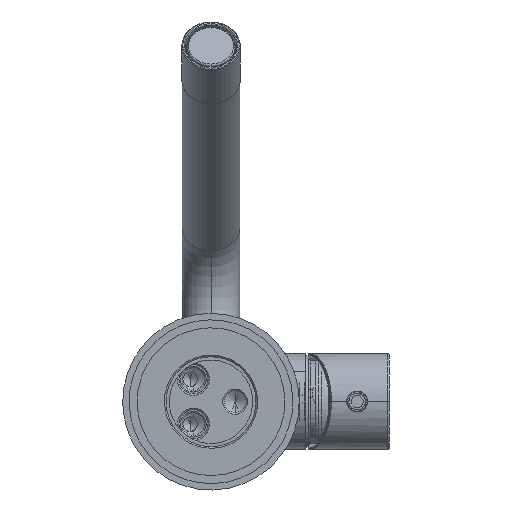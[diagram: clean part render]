
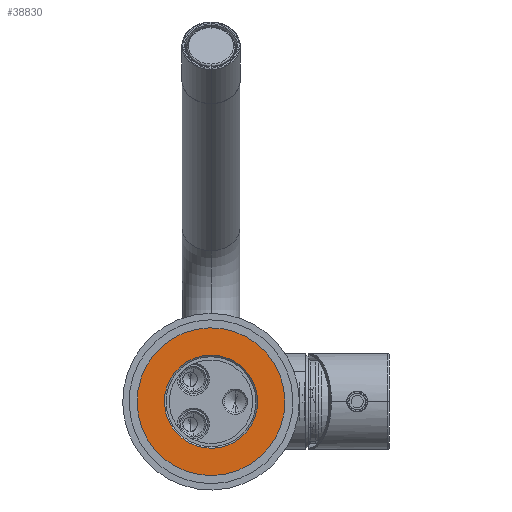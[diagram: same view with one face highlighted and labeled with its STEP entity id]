
A CAD part, front view. The second image highlights one B-rep face of the part: STEP entity #38830.
In plain terms, the highlighted planar face has unit normal (0, -1, 0).
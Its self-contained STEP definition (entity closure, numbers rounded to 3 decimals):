
#297 = ORIENTED_EDGE ( 'NONE', *, *, #17769, .T. ) ;
#1594 = AXIS2_PLACEMENT_3D ( 'NONE', #29063, #35026, #16016 ) ;
#1979 = CIRCLE ( 'NONE', #7447, 23. ) ;
#2411 = CIRCLE ( 'NONE', #28343, 14.5 ) ;
#5266 = DIRECTION ( 'NONE',  ( 0., 0., 1. ) ) ;
#6397 = CARTESIAN_POINT ( 'NONE',  ( 0., 0., 0. ) ) ;
#7447 = AXIS2_PLACEMENT_3D ( 'NONE', #6397, #42053, #23478 ) ;
#7592 = VERTEX_POINT ( 'NONE', #10712 ) ;
#9234 = AXIS2_PLACEMENT_3D ( 'NONE', #24909, #21299, #5266 ) ;
#10712 = CARTESIAN_POINT ( 'NONE',  ( 0., 0., 23. ) ) ;
#10822 = FACE_OUTER_BOUND ( 'NONE', #24004, .T. ) ;
#11345 = CARTESIAN_POINT ( 'NONE',  ( 0., 0., -23. ) ) ;
#11861 = DIRECTION ( 'NONE',  ( 0., 1., 0. ) ) ;
#12690 = AXIS2_PLACEMENT_3D ( 'NONE', #33869, #11861, #19117 ) ;
#13678 = ORIENTED_EDGE ( 'NONE', *, *, #18239, .T. ) ;
#14128 = CARTESIAN_POINT ( 'NONE',  ( 0., 0., 0. ) ) ;
#14467 = FACE_BOUND ( 'NONE', #29253, .T. ) ;
#14712 = CIRCLE ( 'NONE', #9234, 14.5 ) ;
#16016 = DIRECTION ( 'NONE',  ( 0., 0., -1. ) ) ;
#16141 = VERTEX_POINT ( 'NONE', #11345 ) ;
#17486 = VERTEX_POINT ( 'NONE', #38371 ) ;
#17769 = EDGE_CURVE ( 'NONE', #17486, #24736, #14712, .T. ) ;
#18239 = EDGE_CURVE ( 'NONE', #24736, #17486, #2411, .T. ) ;
#19117 = DIRECTION ( 'NONE',  ( 0., 0., 1. ) ) ;
#20860 = PLANE ( 'NONE',  #12690 ) ;
#20934 = DIRECTION ( 'NONE',  ( 0., 1., 0. ) ) ;
#21299 = DIRECTION ( 'NONE',  ( 0., 1., 0. ) ) ;
#23478 = DIRECTION ( 'NONE',  ( 0., 0., -1. ) ) ;
#24004 = EDGE_LOOP ( 'NONE', ( #29462, #29502 ) ) ;
#24736 = VERTEX_POINT ( 'NONE', #29991 ) ;
#24909 = CARTESIAN_POINT ( 'NONE',  ( 0., 0., 0. ) ) ;
#25346 = EDGE_CURVE ( 'NONE', #7592, #16141, #26857, .T. ) ;
#26857 = CIRCLE ( 'NONE', #1594, 23. ) ;
#28343 = AXIS2_PLACEMENT_3D ( 'NONE', #14128, #20934, #37122 ) ;
#29063 = CARTESIAN_POINT ( 'NONE',  ( 0., 0., 0. ) ) ;
#29253 = EDGE_LOOP ( 'NONE', ( #13678, #297 ) ) ;
#29462 = ORIENTED_EDGE ( 'NONE', *, *, #35272, .T. ) ;
#29502 = ORIENTED_EDGE ( 'NONE', *, *, #25346, .T. ) ;
#29991 = CARTESIAN_POINT ( 'NONE',  ( 0., 0., -14.5 ) ) ;
#33869 = CARTESIAN_POINT ( 'NONE',  ( -14., 0., 0. ) ) ;
#35026 = DIRECTION ( 'NONE',  ( 0., -1., 0. ) ) ;
#35272 = EDGE_CURVE ( 'NONE', #16141, #7592, #1979, .T. ) ;
#37122 = DIRECTION ( 'NONE',  ( 0., 0., 1. ) ) ;
#38371 = CARTESIAN_POINT ( 'NONE',  ( 0., 0., 14.5 ) ) ;
#38830 = ADVANCED_FACE ( 'NONE', ( #14467, #10822 ), #20860, .F. ) ;
#42053 = DIRECTION ( 'NONE',  ( 0., -1., 0. ) ) ;
